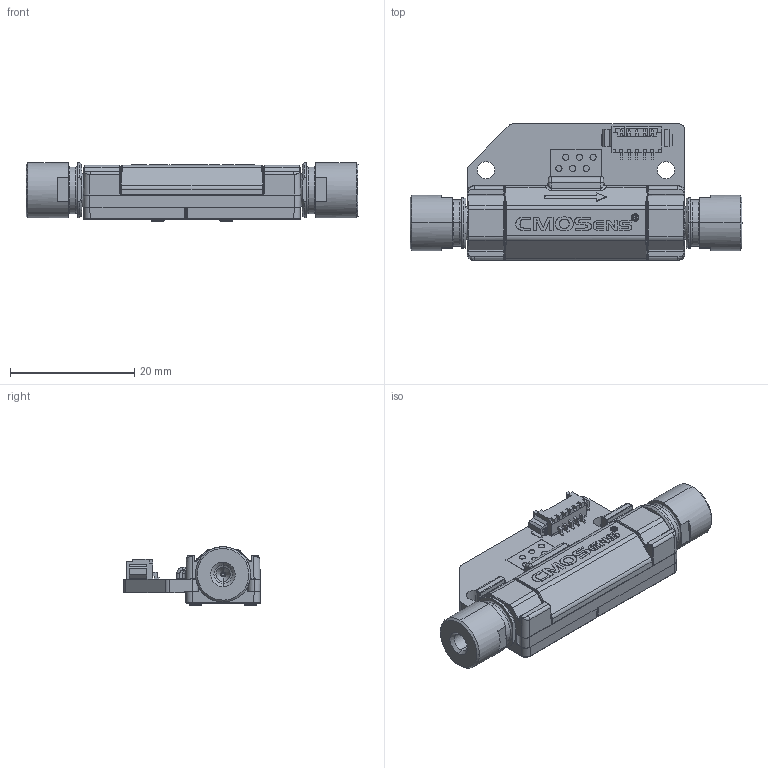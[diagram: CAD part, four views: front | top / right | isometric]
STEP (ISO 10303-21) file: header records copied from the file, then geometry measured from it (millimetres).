
FILE_DESCRIPTION (( 'STEP AP214' ), '1' );
FILE_NAME ('FGT_PRTEXT_FLOW_UNIT_OEM_2019.STEP', '2019-03-25T09:35:51', ( '' ), ( '' ), 'SwSTEP 2.0', 'SolidWorks 2018', '' );
FILE_SCHEMA (( 'AUTOMOTIVE_DESIGN' ));
Length unit declared in the file: millimetre
Products named in the file (1): FGT_PRTEXT_FLOW_UNIT_OEM_2019
Bounding box: 53.5 x 22 x 9.43 mm (x, y, z)
Volume: 4953.1 mm3; surface area: 3963.5 mm2
Topology: 2 solids, 5 shells, 1037 faces, 2709 edges, 1720 vertices
Faces by surface type: plane 528, cylinder 279, bspline 199, cone 31
Entity records: 48406 total; most frequent: CARTESIAN_POINT 13383, ORIENTED_EDGE 5414, DIRECTION 4101, EDGE_CURVE 2707, VERTEX_POINT 1720, VECTOR 1627, LINE 1627, AXIS2_PLACEMENT_3D 1237
